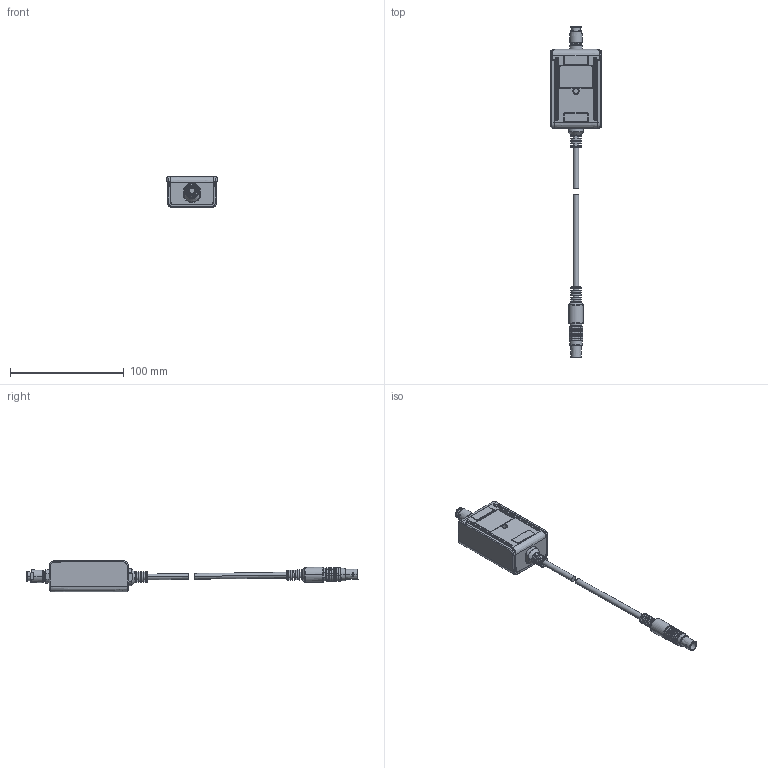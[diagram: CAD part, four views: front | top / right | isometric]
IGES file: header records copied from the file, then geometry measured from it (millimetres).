
Start section:  PTC IGES file: cu_ni-998x_10pin_lemo.igs
Global section: file name: cu_ni-998x_10pin_lemo.igs; native system: Creo Parametric by PTC Inc.; preprocessor: 2021063; author: dkendric; organization: Unknown; date: 20241114.174132; units: millimetre
Bounding box: 44.05 x 291.38 x 27.75 mm (x, y, z)
Surface area: 32565 mm2 (no closed solid volume)
Topology: 0 solids, 0 shells, 1995 faces, 8992 edges, 8974 vertices
Faces by surface type: revolution 1001, bspline 977, extrusion 17
